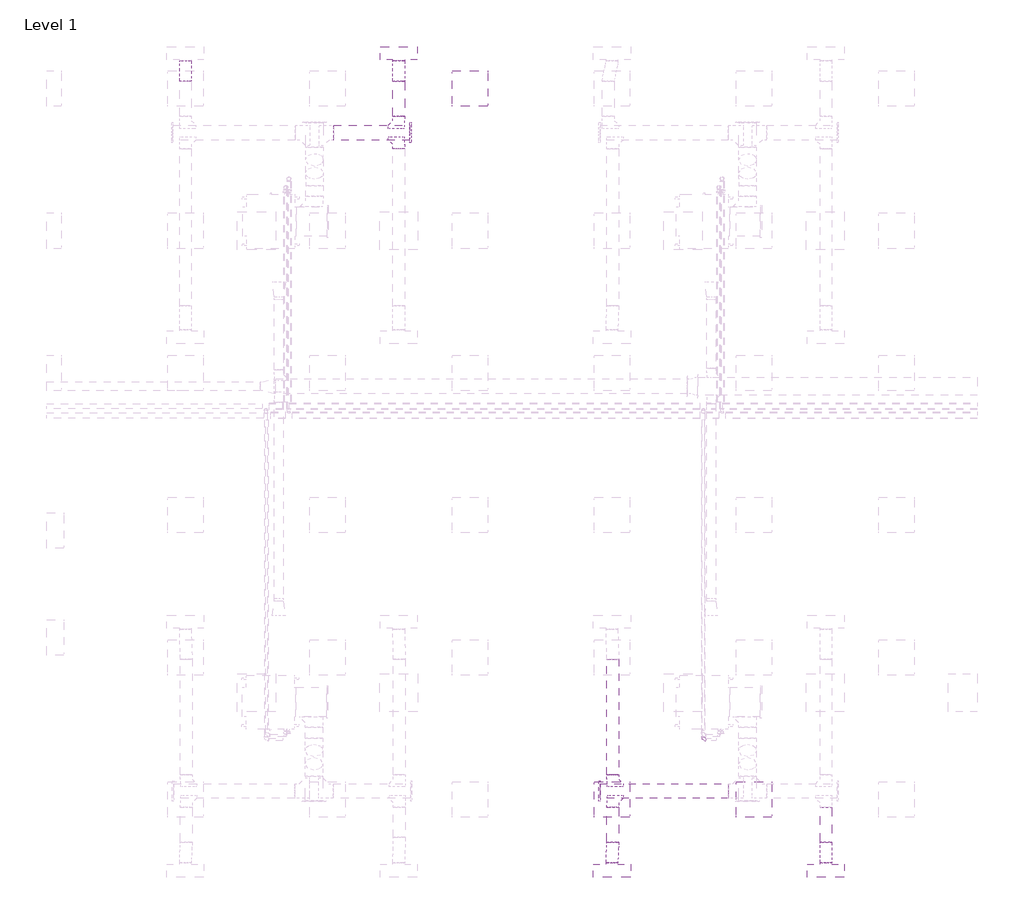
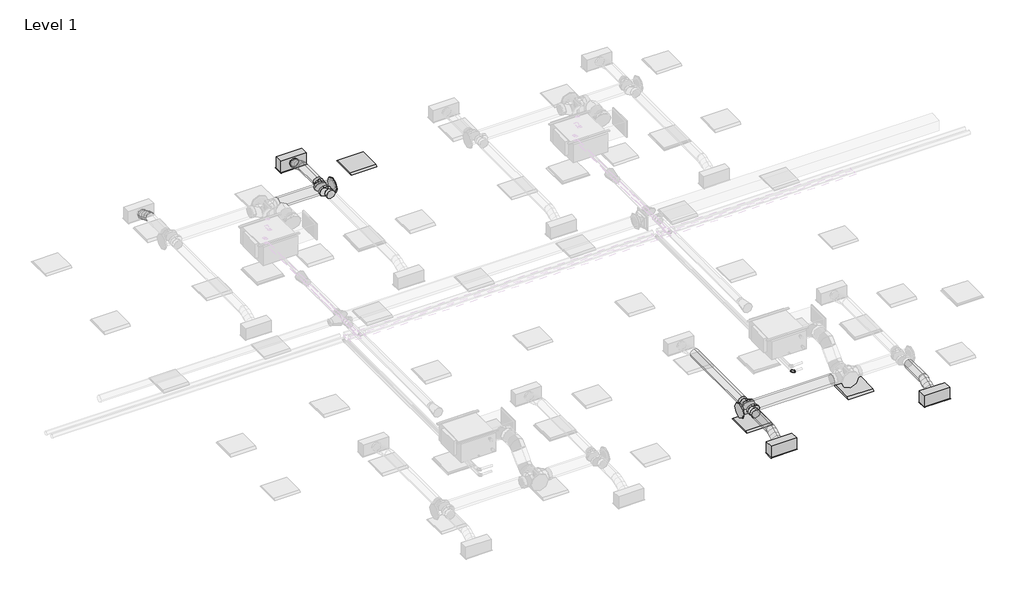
# One storey, part 6 of 30: 10 duct segments, 6 duct fittings, 3 air terminals, 3 light fixtures, 1 pipe fitting.
"""IFC4 building model written with IfcOpenShell, lengths in millimetres."""

from ifc_helpers import new_model, si_unit, point, frame, frame_2d, origin, place, context, project, spatial, circle_curve, ellipse_curve, trimmed, segment, composite_curve, outline, extrude, transform, mapped, element, save
from ifc_brep_helpers import plane_surface, cylinder_surface, advanced_brep
from components import supply_diffuser_with_plenum_linear_slot_hosted_8c379eed, dw144_round_blank_end_standard_e3d0b58b, dw144_round_blank_end_standard_9aa061e7, dw144_round_shoe_branch_slip_joint1_standard_2_15a2edd8, light_fixture_1c7c1157, elbow_threaded_gmi_standard_b4aa7741

model = new_model("IFC4")

# Units and contexts
model_context = context("Model", 3, world=origin())
ifc_project = project(units=[si_unit("LENGTHUNIT", "METRE", prefix="MILLI")], contexts=[model_context])

# Site, building, storey
site = spatial("IfcSite", under=ifc_project)
building = spatial("IfcBuilding", under=site)
storey = spatial("IfcBuildingStorey", under=building, Name="Level 1", Elevation=3900.0)

# Air terminals
placement = place(None, origin())
supply_diffuser_with_plenum_linear_slot_hosted_shape = supply_diffuser_with_plenum_linear_slot_hosted_8c379eed(model_context)
element("IfcAirTerminal", 1, ObjectType="Supply Diffuser with Plenum - Linear Slot - Hosted : 24\" x 8\"-200 In Inlet  4-Slot", at=placement, inside=storey, context=model_context, shape_type="MappedRepresentation", body=[
    mapped(supply_diffuser_with_plenum_linear_slot_hosted_shape, transform((16362.2000027, 963.2000004, 6700.0), x_axis=(1.0, 0.0, 0.0), y_axis=(0.0, -1.0, 0.0), z_axis=(0.0, 0.0, -1.0))),
])
element("IfcAirTerminal", 2, ObjectType="Supply Diffuser with Plenum - Linear Slot - Hosted : 24\" x 8\"-200 In Inlet  4-Slot", at=placement, inside=storey, context=model_context, shape_type="MappedRepresentation", body=[
    mapped(supply_diffuser_with_plenum_linear_slot_hosted_shape, transform((19973.9000022, 963.2000004, 6700.0), x_axis=(1.0, 0.0, 0.0), y_axis=(0.0, -1.0, 0.0), z_axis=(0.0, 0.0, -1.0))),
])
element("IfcAirTerminal", 3, ObjectType="Supply Diffuser with Plenum - Linear Slot - Hosted : 24\" x 8\"-200 In Inlet  4-Slot", at=placement, inside=storey, context=model_context, shape_type="MappedRepresentation", body=[
    mapped(supply_diffuser_with_plenum_linear_slot_hosted_shape, transform((12762.2000027, 14763.2000004, 6700.0), x_axis=(-1.0, 0.0, 0.0), y_axis=(0.0, 1.0, 0.0), z_axis=(0.0, 0.0, -1.0))),
])

# Duct fittings
dw144_round_blank_end_standard_shape = dw144_round_blank_end_standard_e3d0b58b(model_context)
element("IfcDuctFitting", 4, ObjectType="DW144 Round Blank End : Standard", at=placement, inside=storey, context=model_context, shape_type="MappedRepresentation", body=[
    mapped(dw144_round_blank_end_standard_shape, transform((12949.7561029, 13419.8981817, 6972.2088531), x_axis=(1.0, 0.0, 0.0), y_axis=(0.0, 1.0, 0.0), z_axis=(0.0, 0.0, 1.0))),
])
dw144_round_blank_end_standard_2_shape = dw144_round_blank_end_standard_9aa061e7(model_context)
element("IfcDuctFitting", 5, ObjectType="DW144 Round Blank End : Standard", at=placement, inside=storey, context=model_context, shape_type="MappedRepresentation", body=[
    mapped(dw144_round_blank_end_standard_2_shape, transform((16161.4561025, 2306.5018192, 6972.2088531), x_axis=(-1.0, 0.0, 0.0), y_axis=(0.0, -1.0, 0.0), z_axis=(0.0, 0.0, 1.0))),
])
dw144_round_shoe_branch_slip_joint1_standard_2_shape = dw144_round_shoe_branch_slip_joint1_standard_2_15a2edd8(model_context)
element("IfcDuctFitting", 6, ObjectType="DW144 Round Shoe Branch - Slip Joint1 : Standard 2", at=placement, inside=storey, context=model_context, shape_type="MappedRepresentation", body=[
    mapped(dw144_round_shoe_branch_slip_joint1_standard_2_shape, transform((12762.2000027, 13544.8981817, 6972.2088531), x_axis=(0.0, 1.0, 0.0), y_axis=(1.0, 0.0, 0.0), z_axis=(0.0, 0.0, -1.0))),
])
element("IfcDuctFitting", 7, ObjectType="DW144 Round Shoe Branch - Slip Joint1 : Standard 2", at=placement, inside=storey, context=model_context, shape_type="MappedRepresentation", body=[
    mapped(dw144_round_shoe_branch_slip_joint1_standard_2_shape, transform((12762.2000027, 13294.8981817, 6972.2088531), x_axis=(0.0, -1.0, 0.0), y_axis=(1.0, 0.0, 0.0), z_axis=(0.0, 0.0, 1.0))),
])
element("IfcDuctFitting", 8, ObjectType="DW144 Round Shoe Branch - Slip Joint1 : Standard 2", at=placement, inside=storey, context=model_context, shape_type="MappedRepresentation", body=[
    mapped(dw144_round_shoe_branch_slip_joint1_standard_2_shape, transform((16373.9000022, 2181.5018192, 6972.2088531), x_axis=(0.0, -1.0, 0.0), y_axis=(-1.0, 0.0, 0.0), z_axis=(0.0, 0.0, -1.0))),
])
element("IfcDuctFitting", 9, ObjectType="DW144 Round Shoe Branch - Slip Joint1 : Standard 2", at=placement, inside=storey, context=model_context, shape_type="MappedRepresentation", body=[
    mapped(dw144_round_shoe_branch_slip_joint1_standard_2_shape, transform((16373.9000022, 2431.5018192, 6972.2088531), x_axis=(0.0, 1.0, 0.0), y_axis=(-1.0, 0.0, 0.0), z_axis=(0.0, 0.0, 1.0))),
])

# Duct segments
element("IfcDuctSegment", 10, ObjectType="DW144 Segmented Bend / Shoe Branch", at=placement, inside=storey, context=model_context, shape_type="SweptSolid", body=[
    extrude(outline(composite_curve([segment(trimmed(circle_curve(frame_2d((13419.8981817, 6972.2088531)), 125.0), [point((13294.8981817, 6972.2088531))], [point((13419.8981817, 7097.2088531))], False, "CARTESIAN"), True, "CONTINUOUS"), segment(trimmed(circle_curve(frame_2d((13419.8981817, 6972.2088531)), 125.0), [point((13419.8981817, 7097.2088531))], [point((13544.8981817, 6972.2088531))], False, "CARTESIAN"), True, "CONTINUOUS"), segment(trimmed(circle_curve(frame_2d((13419.8981817, 6972.2088531)), 125.0), [point((13544.8981817, 6972.2088531))], [point((13419.8981817, 6847.2088531))], False, "CARTESIAN"), True, "CONTINUOUS"), segment(trimmed(circle_curve(frame_2d((13419.8981817, 6972.2088531)), 125.0), [point((13419.8981817, 6847.2088531))], [point((13294.8981817, 6972.2088531))], False, "CARTESIAN"), True, "CONTINUOUS")], self_intersect=False)), frame((11664.7561029, 0.0, 0.0), z_axis=(1.0, 0.0, 0.0), x_axis=(0.0, 1.0, 0.0)), (0.0, 0.0, 1.0), 1285.0),
])
element("IfcDuctSegment", 11, ObjectType="DW144 Segmented Bend / Shoe Branch", at=placement, inside=storey, context=model_context, shape_type="SweptSolid", body=[
    extrude(outline(composite_curve([segment(trimmed(circle_curve(frame_2d((6972.2088531, 12762.2000027)), 100.0), [point((6972.2088531, 12862.2000027))], [point((7072.2088531, 12762.2000027))], False, "CARTESIAN"), True, "CONTINUOUS"), segment(trimmed(circle_curve(frame_2d((6972.2088531, 12762.2000027)), 100.0), [point((7072.2088531, 12762.2000027))], [point((6972.2088531, 12662.2000027))], False, "CARTESIAN"), True, "CONTINUOUS"), segment(trimmed(circle_curve(frame_2d((6972.2088531, 12762.2000027)), 100.0), [point((6972.2088531, 12662.2000027))], [point((6872.2088531, 12762.2000027))], False, "CARTESIAN"), True, "CONTINUOUS"), segment(trimmed(circle_curve(frame_2d((6972.2088531, 12762.2000027)), 100.0), [point((6872.2088531, 12762.2000027))], [point((6972.2088531, 12862.2000027))], False, "CARTESIAN"), True, "CONTINUOUS")], self_intersect=False)), frame((0.0, 13694.8981817, 0.0), z_axis=(0.0, 1.0, 0.0), x_axis=(0.0, 0.0, 1.0)), (0.0, 0.0, 1.0), 590.0),
])
element("IfcDuctSegment", 12, ObjectType="DW144 Segmented Bend / Shoe Branch", at=placement, inside=storey, context=model_context, shape_type="SweptSolid", body=[
    extrude(outline(composite_curve([segment(trimmed(circle_curve(frame_2d((2306.5018192, 6972.2088531)), 125.0), [point((2431.5018192, 6972.2088531))], [point((2306.5018192, 6847.2088531))], False, "CARTESIAN"), True, "CONTINUOUS"), segment(trimmed(circle_curve(frame_2d((2306.5018192, 6972.2088531)), 125.0), [point((2306.5018192, 6847.2088531))], [point((2181.5018192, 6972.2088531))], False, "CARTESIAN"), True, "CONTINUOUS"), segment(trimmed(circle_curve(frame_2d((2306.5018192, 6972.2088531)), 125.0), [point((2181.5018192, 6972.2088531))], [point((2306.5018192, 7097.2088531))], False, "CARTESIAN"), True, "CONTINUOUS"), segment(trimmed(circle_curve(frame_2d((2306.5018192, 6972.2088531)), 125.0), [point((2306.5018192, 7097.2088531))], [point((2431.5018192, 6972.2088531))], False, "CARTESIAN"), True, "CONTINUOUS")], self_intersect=False)), frame((16161.4561025, 0.0, 0.0), z_axis=(1.0, 0.0, 0.0), x_axis=(0.0, 1.0, 0.0)), (0.0, 0.0, 1.0), 2165.0),
])
element("IfcDuctSegment", 13, ObjectType="DW144 Segmented Bend / Shoe Branch", at=placement, inside=storey, context=model_context, shape_type="SweptSolid", body=[
    extrude(outline(composite_curve([segment(trimmed(circle_curve(frame_2d((6972.2088531, 19973.9000022)), 100.0), [point((6972.2088531, 19873.9000022))], [point((6872.2088531, 19973.9000022))], False, "CARTESIAN"), True, "CONTINUOUS"), segment(trimmed(circle_curve(frame_2d((6972.2088531, 19973.9000022)), 100.0), [point((6872.2088531, 19973.9000022))], [point((6972.2088531, 20073.9000022))], False, "CARTESIAN"), True, "CONTINUOUS"), segment(trimmed(circle_curve(frame_2d((6972.2088531, 19973.9000022)), 100.0), [point((6972.2088531, 20073.9000022))], [point((7072.2088531, 19973.9000022))], False, "CARTESIAN"), True, "CONTINUOUS"), segment(trimmed(circle_curve(frame_2d((6972.2088531, 19973.9000022)), 100.0), [point((7072.2088531, 19973.9000022))], [point((6972.2088531, 19873.9000022))], False, "CARTESIAN"), True, "CONTINUOUS")], self_intersect=False)), frame((0.0, 1441.5018192, 0.0), z_axis=(0.0, 1.0, 0.0), x_axis=(0.0, 0.0, 1.0)), (0.0, 0.0, 1.0), 590.0),
])
element("IfcDuctSegment", 14, ObjectType="DW144 Segmented Bend / Shoe Branch", at=placement, inside=storey, context=model_context, shape_type="SweptSolid", body=[
    extrude(outline(composite_curve([segment(trimmed(circle_curve(frame_2d((6972.2088531, 16373.9000022)), 100.0), [point((6972.2088531, 16473.9000022))], [point((7072.2088531, 16373.9000022))], False, "CARTESIAN"), True, "CONTINUOUS"), segment(trimmed(circle_curve(frame_2d((6972.2088531, 16373.9000022)), 100.0), [point((7072.2088531, 16373.9000022))], [point((6972.2088531, 16273.9000022))], False, "CARTESIAN"), True, "CONTINUOUS"), segment(trimmed(circle_curve(frame_2d((6972.2088531, 16373.9000022)), 100.0), [point((6972.2088531, 16273.9000022))], [point((6872.2088531, 16373.9000022))], False, "CARTESIAN"), True, "CONTINUOUS"), segment(trimmed(circle_curve(frame_2d((6972.2088531, 16373.9000022)), 100.0), [point((6872.2088531, 16373.9000022))], [point((6972.2088531, 16473.9000022))], False, "CARTESIAN"), True, "CONTINUOUS")], self_intersect=False)), frame((0.0, 1441.5018192, 0.0), z_axis=(0.0, 1.0, 0.0), x_axis=(0.0, 0.0, 1.0)), (0.0, 0.0, 1.0), 590.0),
])
element("IfcDuctSegment", 15, ObjectType="DW144 Segmented Bend / Shoe Branch", at=placement, inside=storey, context=model_context, shape_type="SweptSolid", body=[
    extrude(outline(composite_curve([segment(trimmed(circle_curve(frame_2d((6972.2088531, 16373.9000022)), 100.0), [point((6972.2088531, 16473.9000022))], [point((7072.2088531, 16373.9000022))], False, "CARTESIAN"), True, "CONTINUOUS"), segment(trimmed(circle_curve(frame_2d((6972.2088531, 16373.9000022)), 100.0), [point((7072.2088531, 16373.9000022))], [point((6972.2088531, 16273.9000022))], False, "CARTESIAN"), True, "CONTINUOUS"), segment(trimmed(circle_curve(frame_2d((6972.2088531, 16373.9000022)), 100.0), [point((6972.2088531, 16273.9000022))], [point((6872.2088531, 16373.9000022))], False, "CARTESIAN"), True, "CONTINUOUS"), segment(trimmed(circle_curve(frame_2d((6972.2088531, 16373.9000022)), 100.0), [point((6872.2088531, 16373.9000022))], [point((6972.2088531, 16473.9000022))], False, "CARTESIAN"), True, "CONTINUOUS")], self_intersect=False)), frame((0.0, 2581.5018192, 0.0), z_axis=(0.0, 1.0, 0.0), x_axis=(0.0, 0.0, 1.0)), (0.0, 0.0, 1.0), 1950.0),
])
element("IfcDuctSegment", 16, ObjectType="Flex - Round", at=placement, inside=storey, context=model_context, shape_type="AdvancedBrep", body=[
    advanced_brep(
    [(12662.2000027, 14284.8981817, 6972.2088531), (12762.2000027, 14284.8981817, 6872.2088531), (12862.2000027, 14284.8981817, 6972.2088531), (12762.2000027, 14284.8981817, 7072.2088531), (12662.2000027, 14305.1168804, 6972.2088531), (12762.2000027, 14291.9969011, 6872.2088531), (12862.2000027, 14305.1168804, 6972.2088531), (12762.2000027, 14318.2368598, 7072.2088531), (12662.2000027, 14634.3000004, 6854.4), (12762.2000027, 14634.3000004, 6954.4), (12862.2000027, 14634.3000004, 6854.4), (12762.2000027, 14634.3000004, 6754.4), (12662.2000027, 14374.0604937, 6953.8012198), (12762.2000027, 14339.4842635, 6859.5299419), (12862.2000027, 14374.0604937, 6953.8012198), (12762.2000027, 14408.6367238, 7048.0724978), (12662.2000027, 14459.599091, 6913.3044266), (12762.2000027, 14416.809003, 6822.9218599), (12862.2000027, 14459.599091, 6913.3044266), (12762.2000027, 14502.3891791, 7003.6869932), (12662.2000027, 14545.1376884, 6872.8076333), (12762.2000027, 14510.5614583, 6778.5363553), (12862.2000027, 14545.1376884, 6872.8076333), (12762.2000027, 14579.7139186, 6967.0789113), (12662.2000027, 14614.0813017, 6854.4), (12762.2000027, 14600.9613223, 6754.4), (12862.2000027, 14614.0813017, 6854.4), (12762.2000027, 14627.201281, 6954.4)],
    [
        (0, 1, circle_curve(frame((12762.2000027, 14284.8981817, 6972.2088531), z_axis=(0.0, -1.0, 0.0), x_axis=(-1.0, 0.0, 0.0)), 100.0)),
        (1, 2, circle_curve(frame((12762.2000027, 14284.8981817, 6972.2088531), z_axis=(0.0, -1.0, 0.0), x_axis=(-1.0, 0.0, 0.0)), 100.0)),
        (2, 3, circle_curve(frame((12762.2000027, 14284.8981817, 6972.2088531), z_axis=(0.0, -1.0, 0.0), x_axis=(-1.0, 0.0, 0.0)), 100.0)),
        (3, 0, circle_curve(frame((12762.2000027, 14284.8981817, 6972.2088531), z_axis=(0.0, -1.0, 0.0), x_axis=(-1.0, 0.0, 0.0)), 100.0)),
        (0, 4),
        (4, 5, ellipse_curve(frame((12762.2000027, 14305.1168804, 6972.2088531), z_axis=(0.0, -0.9915028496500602, 0.1300849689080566), x_axis=(0.0, -0.13008496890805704, -0.9915028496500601)), 100.8569971, 100.0)),
        (5, 1),
        (5, 6, ellipse_curve(frame((12762.2000027, 14305.1168804, 6972.2088531), z_axis=(0.0, -0.9915028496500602, 0.1300849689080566), x_axis=(0.0, -0.13008496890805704, -0.9915028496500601)), 100.8569971, 100.0)),
        (6, 2),
        (6, 7, ellipse_curve(frame((12762.2000027, 14305.1168804, 6972.2088531), z_axis=(0.0, -0.9915028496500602, 0.1300849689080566), x_axis=(0.0, -0.13008496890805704, -0.9915028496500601)), 100.8569971, 100.0)),
        (7, 3),
        (7, 4, ellipse_curve(frame((12762.2000027, 14305.1168804, 6972.2088531), z_axis=(0.0, -0.9915028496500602, 0.1300849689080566), x_axis=(0.0, -0.13008496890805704, -0.9915028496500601)), 100.8569971, 100.0)),
        (8, 9, circle_curve(frame((12762.2000027, 14634.3000004, 6854.4), z_axis=(0.0, 1.0, 0.0), x_axis=(-1.0, 0.0, 0.0)), 100.0)),
        (9, 10, circle_curve(frame((12762.2000027, 14634.3000004, 6854.4), z_axis=(0.0, 1.0, 0.0), x_axis=(-1.0, 0.0, 0.0)), 100.0)),
        (10, 11, circle_curve(frame((12762.2000027, 14634.3000004, 6854.4), z_axis=(0.0, 1.0, 0.0), x_axis=(-1.0, 0.0, 0.0)), 100.0)),
        (11, 8, circle_curve(frame((12762.2000027, 14634.3000004, 6854.4), z_axis=(0.0, 1.0, 0.0), x_axis=(-1.0, 0.0, 0.0)), 100.0)),
        (4, 12),
        (12, 13, ellipse_curve(frame((12762.2000027, 14374.0604937, 6953.8012198), z_axis=(0.0, -0.9388438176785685, 0.3443432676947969), x_axis=(0.0, -0.34434326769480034, -0.9388438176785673)), 100.4120986, 100.0)),
        (13, 5),
        (13, 14, ellipse_curve(frame((12762.2000027, 14374.0604937, 6953.8012198), z_axis=(0.0, -0.9388438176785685, 0.3443432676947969), x_axis=(0.0, -0.34434326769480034, -0.9388438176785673)), 100.4120986, 100.0)),
        (14, 6),
        (14, 15, ellipse_curve(frame((12762.2000027, 14374.0604937, 6953.8012198), z_axis=(0.0, -0.9388438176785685, 0.3443432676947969), x_axis=(0.0, -0.34434326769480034, -0.9388438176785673)), 100.4120986, 100.0)),
        (15, 7),
        (15, 12, ellipse_curve(frame((12762.2000027, 14374.0604937, 6953.8012198), z_axis=(0.0, -0.9388438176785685, 0.3443432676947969), x_axis=(0.0, -0.34434326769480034, -0.9388438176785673)), 100.4120986, 100.0)),
        (12, 16),
        (16, 17, circle_curve(frame((12762.2000027, 14459.599091, 6913.3044266), z_axis=(0.0, -0.9038256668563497, 0.4279008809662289), x_axis=(-1.0, 0.0, 0.0)), 100.0)),
        (17, 13),
        (17, 18, circle_curve(frame((12762.2000027, 14459.599091, 6913.3044266), z_axis=(0.0, -0.9038256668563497, 0.4279008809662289), x_axis=(-1.0, 0.0, 0.0)), 100.0)),
        (18, 14),
        (18, 19, circle_curve(frame((12762.2000027, 14459.599091, 6913.3044266), z_axis=(0.0, -0.9038256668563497, 0.4279008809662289), x_axis=(-1.0, 0.0, 0.0)), 100.0)),
        (19, 15),
        (19, 16, circle_curve(frame((12762.2000027, 14459.599091, 6913.3044266), z_axis=(0.0, -0.9038256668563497, 0.4279008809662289), x_axis=(-1.0, 0.0, 0.0)), 100.0)),
        (16, 20),
        (20, 21, ellipse_curve(frame((12762.2000027, 14545.1376884, 6872.8076333), z_axis=(0.0, -0.93884381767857, 0.34434326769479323), x_axis=(0.0, 0.34434326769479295, 0.9388438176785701)), 100.4120986, 100.0)),
        (21, 17),
        (21, 22, ellipse_curve(frame((12762.2000027, 14545.1376884, 6872.8076333), z_axis=(0.0, -0.93884381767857, 0.34434326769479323), x_axis=(0.0, 0.34434326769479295, 0.9388438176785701)), 100.4120986, 100.0)),
        (22, 18),
        (22, 23, ellipse_curve(frame((12762.2000027, 14545.1376884, 6872.8076333), z_axis=(0.0, -0.93884381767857, 0.34434326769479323), x_axis=(0.0, 0.34434326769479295, 0.9388438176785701)), 100.4120986, 100.0)),
        (23, 19),
        (23, 20, ellipse_curve(frame((12762.2000027, 14545.1376884, 6872.8076333), z_axis=(0.0, -0.93884381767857, 0.34434326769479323), x_axis=(0.0, 0.34434326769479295, 0.9388438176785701)), 100.4120986, 100.0)),
        (20, 24),
        (24, 25, ellipse_curve(frame((12762.2000027, 14614.0813017, 6854.4), z_axis=(0.0, -0.9915028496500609, 0.13008496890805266), x_axis=(0.0, 0.1300849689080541, 0.9915028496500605)), 100.8569971, 100.0)),
        (25, 21),
        (25, 26, ellipse_curve(frame((12762.2000027, 14614.0813017, 6854.4), z_axis=(0.0, -0.9915028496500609, 0.13008496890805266), x_axis=(0.0, 0.1300849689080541, 0.9915028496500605)), 100.8569971, 100.0)),
        (26, 22),
        (26, 27, ellipse_curve(frame((12762.2000027, 14614.0813017, 6854.4), z_axis=(0.0, -0.9915028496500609, 0.13008496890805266), x_axis=(0.0, 0.1300849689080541, 0.9915028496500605)), 100.8569971, 100.0)),
        (27, 23),
        (27, 24, ellipse_curve(frame((12762.2000027, 14614.0813017, 6854.4), z_axis=(0.0, -0.9915028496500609, 0.13008496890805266), x_axis=(0.0, 0.1300849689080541, 0.9915028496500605)), 100.8569971, 100.0)),
        (24, 8),
        (11, 25),
        (10, 26),
        (9, 27),
    ],
    [
        plane_surface(frame((12662.2000027, 14284.8981817, 6972.2088531), z_axis=(0.0, -1.0, 0.0), x_axis=(0.0, 0.0, 1.0))),
        cylinder_surface(frame((12762.2000027, 14284.8981817, 6972.2088531), z_axis=(0.0, -1.0, 0.0), x_axis=(-1.0, 0.0, 0.0)), 100.0),
        plane_surface(frame((12662.2000027, 14634.3000004, 6854.4), z_axis=(0.0, 1.0, 0.0), x_axis=(0.0, 0.0, 1.0))),
        cylinder_surface(frame((12762.2000027, 14305.1168804, 6972.2088531), z_axis=(0.0, -0.9661558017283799, 0.2579592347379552), x_axis=(-1.0, 0.0, 0.0)), 100.0),
        cylinder_surface(frame((12762.2000027, 14374.0604937, 6953.8012198), z_axis=(0.0, -0.9038256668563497, 0.4279008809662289), x_axis=(-1.0, 0.0, 0.0)), 100.0),
        cylinder_surface(frame((12762.2000027, 14459.599091, 6913.3044266), z_axis=(0.0, -0.9038256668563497, 0.4279008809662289), x_axis=(-1.0, 0.0, 0.0)), 100.0),
        cylinder_surface(frame((12762.2000027, 14545.1376884, 6872.8076333), z_axis=(0.0, -0.966155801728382, 0.2579592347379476), x_axis=(-1.0, 0.0, 0.0)), 100.0),
        cylinder_surface(frame((12762.2000027, 14614.0813017, 6854.4), z_axis=(0.0, -1.0, 0.0), x_axis=(-1.0, 0.0, 0.0)), 100.0),
    ],
    [
        (0, [[1, 2, 3, 4]]),
        (1, [[-1, 5, 6, 7]]),
        (1, [[-2, -7, 8, 9]]),
        (1, [[-3, -9, 10, 11]]),
        (1, [[-4, -11, 12, -5]]),
        (2, [[13, 14, 15, 16]]),
        (3, [[-6, 17, 18, 19]]),
        (3, [[-8, -19, 20, 21]]),
        (3, [[-10, -21, 22, 23]]),
        (3, [[-12, -23, 24, -17]]),
        (4, [[-18, 25, 26, 27]]),
        (4, [[-20, -27, 28, 29]]),
        (4, [[-22, -29, 30, 31]]),
        (4, [[-24, -31, 32, -25]]),
        (5, [[-26, 33, 34, 35]]),
        (5, [[-28, -35, 36, 37]]),
        (5, [[-30, -37, 38, 39]]),
        (5, [[-32, -39, 40, -33]]),
        (6, [[-34, 41, 42, 43]]),
        (6, [[-36, -43, 44, 45]]),
        (6, [[-38, -45, 46, 47]]),
        (6, [[-40, -47, 48, -41]]),
        (7, [[-42, 49, -16, 50]]),
        (7, [[-44, -50, -15, 51]]),
        (7, [[-46, -51, -14, 52]]),
        (7, [[-48, -52, -13, -49]]),
    ],
),
])
element("IfcDuctSegment", 17, ObjectType="Flex - Round", at=placement, inside=storey, context=model_context, shape_type="AdvancedBrep", body=[
    advanced_brep(
    [(9062.2000027, 14284.8981817, 6972.2088531), (9162.2000027, 14284.8981817, 6872.2088531), (9262.2000027, 14284.8981817, 6972.2088531), (9162.2000027, 14284.8981817, 7072.2088531), (9062.2000027, 14305.1168804, 6972.2088531), (9162.2000027, 14291.9969011, 6872.2088531), (9262.2000027, 14305.1168804, 6972.2088531), (9162.2000027, 14318.2368598, 7072.2088531), (9062.2000027, 14634.3000004, 6854.4), (9162.2000027, 14634.3000004, 6954.4), (9262.2000027, 14634.3000004, 6854.4), (9162.2000027, 14634.3000004, 6754.4), (9062.2000027, 14374.0604937, 6953.8012198), (9162.2000027, 14339.4842635, 6859.5299419), (9262.2000027, 14374.0604937, 6953.8012198), (9162.2000027, 14408.6367238, 7048.0724978), (9062.2000027, 14459.599091, 6913.3044266), (9162.2000027, 14416.809003, 6822.9218599), (9262.2000027, 14459.599091, 6913.3044266), (9162.2000027, 14502.3891791, 7003.6869932), (9062.2000027, 14545.1376884, 6872.8076333), (9162.2000027, 14510.5614583, 6778.5363553), (9262.2000027, 14545.1376884, 6872.8076333), (9162.2000027, 14579.7139186, 6967.0789113), (9062.2000027, 14614.0813017, 6854.4), (9162.2000027, 14600.9613223, 6754.4), (9262.2000027, 14614.0813017, 6854.4), (9162.2000027, 14627.201281, 6954.4)],
    [
        (0, 1, circle_curve(frame((9162.2000027, 14284.8981817, 6972.2088531), z_axis=(0.0, -1.0, 0.0), x_axis=(-1.0, 0.0, 0.0)), 100.0)),
        (1, 2, circle_curve(frame((9162.2000027, 14284.8981817, 6972.2088531), z_axis=(0.0, -1.0, 0.0), x_axis=(-1.0, 0.0, 0.0)), 100.0)),
        (2, 3, circle_curve(frame((9162.2000027, 14284.8981817, 6972.2088531), z_axis=(0.0, -1.0, 0.0), x_axis=(-1.0, 0.0, 0.0)), 100.0)),
        (3, 0, circle_curve(frame((9162.2000027, 14284.8981817, 6972.2088531), z_axis=(0.0, -1.0, 0.0), x_axis=(-1.0, 0.0, 0.0)), 100.0)),
        (0, 4),
        (4, 5, ellipse_curve(frame((9162.2000027, 14305.1168804, 6972.2088531), z_axis=(0.0, -0.9915028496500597, 0.13008496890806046), x_axis=(0.0, -0.13008496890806, -0.9915028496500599)), 100.8569971, 100.0)),
        (5, 1),
        (5, 6, ellipse_curve(frame((9162.2000027, 14305.1168804, 6972.2088531), z_axis=(0.0, -0.9915028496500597, 0.13008496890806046), x_axis=(0.0, -0.13008496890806, -0.9915028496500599)), 100.8569971, 100.0)),
        (6, 2),
        (6, 7, ellipse_curve(frame((9162.2000027, 14305.1168804, 6972.2088531), z_axis=(0.0, -0.9915028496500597, 0.13008496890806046), x_axis=(0.0, -0.13008496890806, -0.9915028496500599)), 100.8569971, 100.0)),
        (7, 3),
        (7, 4, ellipse_curve(frame((9162.2000027, 14305.1168804, 6972.2088531), z_axis=(0.0, -0.9915028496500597, 0.13008496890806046), x_axis=(0.0, -0.13008496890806, -0.9915028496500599)), 100.8569971, 100.0)),
        (8, 9, circle_curve(frame((9162.2000027, 14634.3000004, 6854.4), z_axis=(0.0, 1.0, 0.0), x_axis=(-1.0, 0.0, 0.0)), 100.0)),
        (9, 10, circle_curve(frame((9162.2000027, 14634.3000004, 6854.4), z_axis=(0.0, 1.0, 0.0), x_axis=(-1.0, 0.0, 0.0)), 100.0)),
        (10, 11, circle_curve(frame((9162.2000027, 14634.3000004, 6854.4), z_axis=(0.0, 1.0, 0.0), x_axis=(-1.0, 0.0, 0.0)), 100.0)),
        (11, 8, circle_curve(frame((9162.2000027, 14634.3000004, 6854.4), z_axis=(0.0, 1.0, 0.0), x_axis=(-1.0, 0.0, 0.0)), 100.0)),
        (4, 12),
        (12, 13, ellipse_curve(frame((9162.2000027, 14374.0604937, 6953.8012198), z_axis=(0.0, -0.9388438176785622, 0.34434326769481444), x_axis=(0.0, -0.34434326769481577, -0.9388438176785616)), 100.4120986, 100.0)),
        (13, 5),
        (13, 14, ellipse_curve(frame((9162.2000027, 14374.0604937, 6953.8012198), z_axis=(0.0, -0.9388438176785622, 0.34434326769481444), x_axis=(0.0, -0.34434326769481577, -0.9388438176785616)), 100.4120986, 100.0)),
        (14, 6),
        (14, 15, ellipse_curve(frame((9162.2000027, 14374.0604937, 6953.8012198), z_axis=(0.0, -0.9388438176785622, 0.34434326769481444), x_axis=(0.0, -0.34434326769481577, -0.9388438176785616)), 100.4120986, 100.0)),
        (15, 7),
        (15, 12, ellipse_curve(frame((9162.2000027, 14374.0604937, 6953.8012198), z_axis=(0.0, -0.9388438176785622, 0.34434326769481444), x_axis=(0.0, -0.34434326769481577, -0.9388438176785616)), 100.4120986, 100.0)),
        (12, 16),
        (16, 17, circle_curve(frame((9162.2000027, 14459.599091, 6913.3044266), z_axis=(0.0, -0.903825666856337, 0.42790088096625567), x_axis=(-1.0, 0.0, 0.0)), 100.0)),
        (17, 13),
        (17, 18, circle_curve(frame((9162.2000027, 14459.599091, 6913.3044266), z_axis=(0.0, -0.903825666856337, 0.42790088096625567), x_axis=(-1.0, 0.0, 0.0)), 100.0)),
        (18, 14),
        (18, 19, circle_curve(frame((9162.2000027, 14459.599091, 6913.3044266), z_axis=(0.0, -0.903825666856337, 0.42790088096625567), x_axis=(-1.0, 0.0, 0.0)), 100.0)),
        (19, 15),
        (19, 16, circle_curve(frame((9162.2000027, 14459.599091, 6913.3044266), z_axis=(0.0, -0.903825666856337, 0.42790088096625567), x_axis=(-1.0, 0.0, 0.0)), 100.0)),
        (16, 20),
        (20, 21, ellipse_curve(frame((9162.2000027, 14545.1376884, 6872.8076333), z_axis=(0.0, -0.9388438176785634, 0.3443432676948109), x_axis=(0.0, 0.34434326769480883, 0.9388438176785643)), 100.4120986, 100.0)),
        (21, 17),
        (21, 22, ellipse_curve(frame((9162.2000027, 14545.1376884, 6872.8076333), z_axis=(0.0, -0.9388438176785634, 0.3443432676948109), x_axis=(0.0, 0.34434326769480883, 0.9388438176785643)), 100.4120986, 100.0)),
        (22, 18),
        (22, 23, ellipse_curve(frame((9162.2000027, 14545.1376884, 6872.8076333), z_axis=(0.0, -0.9388438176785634, 0.3443432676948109), x_axis=(0.0, 0.34434326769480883, 0.9388438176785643)), 100.4120986, 100.0)),
        (23, 19),
        (23, 20, ellipse_curve(frame((9162.2000027, 14545.1376884, 6872.8076333), z_axis=(0.0, -0.9388438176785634, 0.3443432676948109), x_axis=(0.0, 0.34434326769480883, 0.9388438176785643)), 100.4120986, 100.0)),
        (20, 24),
        (24, 25, ellipse_curve(frame((9162.2000027, 14614.0813017, 6854.4), z_axis=(0.0, -0.9915028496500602, 0.1300849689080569), x_axis=(0.0, 0.1300849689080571, 0.9915028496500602)), 100.8569971, 100.0)),
        (25, 21),
        (25, 26, ellipse_curve(frame((9162.2000027, 14614.0813017, 6854.4), z_axis=(0.0, -0.9915028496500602, 0.1300849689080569), x_axis=(0.0, 0.1300849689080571, 0.9915028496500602)), 100.8569971, 100.0)),
        (26, 22),
        (26, 27, ellipse_curve(frame((9162.2000027, 14614.0813017, 6854.4), z_axis=(0.0, -0.9915028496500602, 0.1300849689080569), x_axis=(0.0, 0.1300849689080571, 0.9915028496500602)), 100.8569971, 100.0)),
        (27, 23),
        (27, 24, ellipse_curve(frame((9162.2000027, 14614.0813017, 6854.4), z_axis=(0.0, -0.9915028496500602, 0.1300849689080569), x_axis=(0.0, 0.1300849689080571, 0.9915028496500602)), 100.8569971, 100.0)),
        (24, 8),
        (11, 25),
        (10, 26),
        (9, 27),
    ],
    [
        plane_surface(frame((9062.2000027, 14284.8981817, 6972.2088531), z_axis=(0.0, -1.0, 0.0), x_axis=(0.0, 0.0, 1.0))),
        cylinder_surface(frame((9162.2000027, 14284.8981817, 6972.2088531), z_axis=(0.0, -1.0, 0.0), x_axis=(-1.0, 0.0, 0.0)), 100.0),
        plane_surface(frame((9062.2000027, 14634.3000004, 6854.4), z_axis=(0.0, 1.0, 0.0), x_axis=(0.0, 0.0, 1.0))),
        cylinder_surface(frame((9162.2000027, 14305.1168804, 6972.2088531), z_axis=(0.0, -0.9661558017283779, 0.25795923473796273), x_axis=(-1.0, 0.0, 0.0)), 100.0),
        cylinder_surface(frame((9162.2000027, 14374.0604937, 6953.8012198), z_axis=(0.0, -0.903825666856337, 0.42790088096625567), x_axis=(-1.0, 0.0, 0.0)), 100.0),
        cylinder_surface(frame((9162.2000027, 14459.599091, 6913.3044266), z_axis=(0.0, -0.903825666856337, 0.42790088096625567), x_axis=(-1.0, 0.0, 0.0)), 100.0),
        cylinder_surface(frame((9162.2000027, 14545.1376884, 6872.8076333), z_axis=(0.0, -0.9661558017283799, 0.25795923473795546), x_axis=(-1.0, 0.0, 0.0)), 100.0),
        cylinder_surface(frame((9162.2000027, 14614.0813017, 6854.4), z_axis=(0.0, -1.0, 0.0), x_axis=(-1.0, 0.0, 0.0)), 100.0),
    ],
    [
        (0, [[1, 2, 3, 4]]),
        (1, [[-1, 5, 6, 7]]),
        (1, [[-2, -7, 8, 9]]),
        (1, [[-3, -9, 10, 11]]),
        (1, [[-4, -11, 12, -5]]),
        (2, [[13, 14, 15, 16]]),
        (3, [[-6, 17, 18, 19]]),
        (3, [[-8, -19, 20, 21]]),
        (3, [[-10, -21, 22, 23]]),
        (3, [[-12, -23, 24, -17]]),
        (4, [[-18, 25, 26, 27]]),
        (4, [[-20, -27, 28, 29]]),
        (4, [[-22, -29, 30, 31]]),
        (4, [[-24, -31, 32, -25]]),
        (5, [[-26, 33, 34, 35]]),
        (5, [[-28, -35, 36, 37]]),
        (5, [[-30, -37, 38, 39]]),
        (5, [[-32, -39, 40, -33]]),
        (6, [[-34, 41, 42, 43]]),
        (6, [[-36, -43, 44, 45]]),
        (6, [[-38, -45, 46, 47]]),
        (6, [[-40, -47, 48, -41]]),
        (7, [[-42, 49, -16, 50]]),
        (7, [[-44, -50, -15, 51]]),
        (7, [[-46, -51, -14, 52]]),
        (7, [[-48, -52, -13, -49]]),
    ],
),
])
element("IfcDuctSegment", 18, ObjectType="Flex - Round", at=placement, inside=storey, context=model_context, shape_type="AdvancedBrep", body=[
    advanced_brep(
    [(16473.9000022, 1441.5018192, 6972.2088531), (16373.9000022, 1441.5018192, 6872.2088531), (16273.9000022, 1441.5018192, 6972.2088531), (16373.9000022, 1441.5018192, 7072.2088531), (16473.9000022, 1419.9886644, 6972.2088531), (16373.9000022, 1434.4041273, 6872.2088531), (16273.9000022, 1422.5932881, 6972.2088531), (16373.9000022, 1408.1778252, 7072.2088531), (16462.2000027, 1092.1000004, 6854.4), (16362.2000027, 1092.1000004, 6954.4), (16262.2000027, 1092.1000004, 6854.4), (16362.2000027, 1092.1000004, 6754.4), (16472.0154345, 1348.8904029, 6953.2328893), (16372.6402079, 1386.8764181, 6859.5238159), (16272.1283201, 1355.7538157, 6954.3695504), (16371.5035467, 1317.7678004, 7048.0786237), (16467.9552415, 1262.5544078, 6912.3502664), (16369.0041626, 1309.5595036, 6822.9119919), (16268.1447633, 1271.0474118, 6914.2585867), (16367.0958423, 1224.0423161, 7003.6968612), (16463.9716847, 1177.8480039, 6872.2393027), (16364.5964582, 1215.8340192, 6778.5302294), (16264.0845704, 1184.7114168, 6873.3759639), (16363.459797, 1146.7254015, 6967.0850372), (16462.2000027, 1111.0085316, 6854.4), (16362.2000027, 1125.4239944, 6754.4), (16262.2000027, 1113.6131552, 6854.4), (16362.2000027, 1099.1976924, 6954.4)],
    [
        (0, 1, circle_curve(frame((16373.9000022, 1441.5018192, 6972.2088531), z_axis=(0.0, 1.0, 0.0), x_axis=(1.0, 0.0, 0.0)), 100.0)),
        (1, 2, circle_curve(frame((16373.9000022, 1441.5018192, 6972.2088531), z_axis=(0.0, 1.0, 0.0), x_axis=(1.0, 0.0, 0.0)), 100.0)),
        (2, 3, circle_curve(frame((16373.9000022, 1441.5018192, 6972.2088531), z_axis=(0.0, 1.0, 0.0), x_axis=(1.0, 0.0, 0.0)), 100.0)),
        (3, 0, circle_curve(frame((16373.9000022, 1441.5018192, 6972.2088531), z_axis=(0.0, 1.0, 0.0), x_axis=(1.0, 0.0, 0.0)), 100.0)),
        (0, 4),
        (4, 5, ellipse_curve(frame((16373.9000022, 1421.2909763, 6972.2088531), z_axis=(0.012911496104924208, 0.9914289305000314, 0.1300075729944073), x_axis=(-0.09798018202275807, 0.130647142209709, -0.9865754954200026)), 100.8645168, 100.0)),
        (5, 1),
        (5, 6, ellipse_curve(frame((16373.9000022, 1421.2909763, 6972.2088531), z_axis=(0.012911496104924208, 0.9914289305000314, 0.1300075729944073), x_axis=(-0.09798018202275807, 0.130647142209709, -0.9865754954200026)), 100.8645168, 100.0)),
        (6, 2),
        (6, 7, ellipse_curve(frame((16373.9000022, 1421.2909763, 6972.2088531), z_axis=(0.012911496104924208, 0.9914289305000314, 0.1300075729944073), x_axis=(-0.09798018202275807, 0.130647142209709, -0.9865754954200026)), 100.8645168, 100.0)),
        (7, 3),
        (7, 4, ellipse_curve(frame((16373.9000022, 1421.2909763, 6972.2088531), z_axis=(0.012911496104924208, 0.9914289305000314, 0.1300075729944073), x_axis=(-0.09798018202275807, 0.130647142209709, -0.9865754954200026)), 100.8645168, 100.0)),
        (8, 9, circle_curve(frame((16362.2000027, 1092.1000004, 6854.4), z_axis=(0.0, -1.0, 0.0), x_axis=(1.0, 0.0, 0.0)), 100.0)),
        (9, 10, circle_curve(frame((16362.2000027, 1092.1000004, 6854.4), z_axis=(0.0, -1.0, 0.0), x_axis=(1.0, 0.0, 0.0)), 100.0)),
        (10, 11, circle_curve(frame((16362.2000027, 1092.1000004, 6854.4), z_axis=(0.0, -1.0, 0.0), x_axis=(1.0, 0.0, 0.0)), 100.0)),
        (11, 8, circle_curve(frame((16362.2000027, 1092.1000004, 6854.4), z_axis=(0.0, -1.0, 0.0), x_axis=(1.0, 0.0, 0.0)), 100.0)),
        (4, 12),
        (12, 13, ellipse_curve(frame((16372.0718773, 1352.3221093, 6953.8012198), z_axis=(0.034174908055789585, 0.9383065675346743, 0.3441116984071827), x_axis=(-0.09273024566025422, 0.34580454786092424, -0.9337131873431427)), 100.4159667, 100.0)),
        (13, 5),
        (13, 14, ellipse_curve(frame((16372.0718773, 1352.3221093, 6953.8012198), z_axis=(0.034174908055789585, 0.9383065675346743, 0.3441116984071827), x_axis=(-0.09273024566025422, 0.34580454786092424, -0.9337131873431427)), 100.4159667, 100.0)),
        (14, 6),
        (14, 15, ellipse_curve(frame((16372.0718773, 1352.3221093, 6953.8012198), z_axis=(0.034174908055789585, 0.9383065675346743, 0.3441116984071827), x_axis=(-0.09273024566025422, 0.34580454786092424, -0.9337131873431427)), 100.4159667, 100.0)),
        (15, 7),
        (15, 12, ellipse_curve(frame((16372.0718773, 1352.3221093, 6953.8012198), z_axis=(0.034174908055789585, 0.9383065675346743, 0.3441116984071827), x_axis=(-0.09273024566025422, 0.34580454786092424, -0.9337131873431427)), 100.4159667, 100.0)),
        (12, 16),
        (16, 17, circle_curve(frame((16368.0500024, 1266.8009098, 6913.3044266), z_axis=(0.042465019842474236, 0.9029767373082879, 0.42758593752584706), x_axis=(0.9990523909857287, -0.042465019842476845, -0.009541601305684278)), 100.0)),
        (17, 13),
        (17, 18, circle_curve(frame((16368.0500024, 1266.8009098, 6913.3044266), z_axis=(0.042465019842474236, 0.9029767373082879, 0.42758593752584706), x_axis=(0.9990523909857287, -0.042465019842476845, -0.009541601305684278)), 100.0)),
        (18, 14),
        (18, 19, circle_curve(frame((16368.0500024, 1266.8009098, 6913.3044266), z_axis=(0.042465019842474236, 0.9029767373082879, 0.42758593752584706), x_axis=(0.9990523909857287, -0.042465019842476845, -0.009541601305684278)), 100.0)),
        (19, 15),
        (19, 16, circle_curve(frame((16368.0500024, 1266.8009098, 6913.3044266), z_axis=(0.042465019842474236, 0.9029767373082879, 0.42758593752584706), x_axis=(0.9990523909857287, -0.042465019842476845, -0.009541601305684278)), 100.0)),
        (16, 20),
        (20, 21, ellipse_curve(frame((16364.0281276, 1181.2797104, 6872.8076333), z_axis=(0.034174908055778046, 0.9383065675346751, 0.34411169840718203), x_axis=(0.09273024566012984, -0.3458045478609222, 0.9337131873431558)), 100.4159667, 100.0)),
        (21, 17),
        (21, 22, ellipse_curve(frame((16364.0281276, 1181.2797104, 6872.8076333), z_axis=(0.034174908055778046, 0.9383065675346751, 0.34411169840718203), x_axis=(0.09273024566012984, -0.3458045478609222, 0.9337131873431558)), 100.4159667, 100.0)),
        (22, 18),
        (22, 23, ellipse_curve(frame((16364.0281276, 1181.2797104, 6872.8076333), z_axis=(0.034174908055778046, 0.9383065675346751, 0.34411169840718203), x_axis=(0.09273024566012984, -0.3458045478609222, 0.9337131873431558)), 100.4159667, 100.0)),
        (23, 19),
        (23, 20, ellipse_curve(frame((16364.0281276, 1181.2797104, 6872.8076333), z_axis=(0.034174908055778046, 0.9383065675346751, 0.34411169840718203), x_axis=(0.09273024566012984, -0.3458045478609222, 0.9337131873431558)), 100.4159667, 100.0)),
        (20, 24),
        (24, 25, ellipse_curve(frame((16362.2000027, 1112.3108434, 6854.4), z_axis=(0.01291149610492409, 0.9914289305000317, 0.13000757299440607), x_axis=(0.09798018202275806, -0.13064714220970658, 0.9865754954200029)), 100.8645168, 100.0)),
        (25, 21),
        (25, 26, ellipse_curve(frame((16362.2000027, 1112.3108434, 6854.4), z_axis=(0.01291149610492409, 0.9914289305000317, 0.13000757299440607), x_axis=(0.09798018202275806, -0.13064714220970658, 0.9865754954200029)), 100.8645168, 100.0)),
        (26, 22),
        (26, 27, ellipse_curve(frame((16362.2000027, 1112.3108434, 6854.4), z_axis=(0.01291149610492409, 0.9914289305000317, 0.13000757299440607), x_axis=(0.09798018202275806, -0.13064714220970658, 0.9865754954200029)), 100.8645168, 100.0)),
        (27, 23),
        (27, 24, ellipse_curve(frame((16362.2000027, 1112.3108434, 6854.4), z_axis=(0.01291149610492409, 0.9914289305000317, 0.13000757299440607), x_axis=(0.09798018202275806, -0.13064714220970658, 0.9865754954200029)), 100.8645168, 100.0)),
        (24, 8),
        (11, 25),
        (10, 26),
        (9, 27),
    ],
    [
        plane_surface(frame((16273.9000022, 1441.5018192, 6972.2088531), z_axis=(0.0, 1.0, 0.0), x_axis=(0.0, 0.0, -1.0))),
        cylinder_surface(frame((16373.9000022, 1441.5018192, 6972.2088531), z_axis=(0.0, 1.0, 0.0), x_axis=(1.0, 0.0, 0.0)), 100.0),
        plane_surface(frame((16262.2000027, 1092.1000004, 6854.4), z_axis=(0.0, -1.0, 0.0), x_axis=(0.0, 0.0, -1.0))),
        cylinder_surface(frame((16373.9000022, 1421.2909763, 6972.2088531), z_axis=(0.025601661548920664, 0.9658626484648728, 0.25778653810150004), x_axis=(0.9996665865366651, -0.02560166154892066, -0.0033571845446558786)), 100.0),
        cylinder_surface(frame((16372.0718773, 1352.3221093, 6953.8012198), z_axis=(0.042465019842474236, 0.9029767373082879, 0.42758593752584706), x_axis=(0.9990523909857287, -0.042465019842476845, -0.009541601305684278)), 100.0),
        cylinder_surface(frame((16368.0500024, 1266.8009098, 6913.3044266), z_axis=(0.04246501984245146, 0.9029767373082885, 0.42758593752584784), x_axis=(0.9990523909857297, -0.04246501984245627, -0.00954160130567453)), 100.0),
        cylinder_surface(frame((16364.0281276, 1181.2797104, 6872.8076333), z_axis=(0.025601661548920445, 0.9658626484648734, 0.2577865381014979), x_axis=(0.9996665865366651, -0.025601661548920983, -0.003357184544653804)), 100.0),
        cylinder_surface(frame((16362.2000027, 1112.3108434, 6854.4), z_axis=(0.0, 1.0, 0.0), x_axis=(1.0, 0.0, 0.0)), 100.0),
    ],
    [
        (0, [[1, 2, 3, 4]]),
        (1, [[-1, 5, 6, 7]]),
        (1, [[-2, -7, 8, 9]]),
        (1, [[-3, -9, 10, 11]]),
        (1, [[-4, -11, 12, -5]]),
        (2, [[13, 14, 15, 16]]),
        (3, [[-6, 17, 18, 19]]),
        (3, [[-8, -19, 20, 21]]),
        (3, [[-10, -21, 22, 23]]),
        (3, [[-12, -23, 24, -17]]),
        (4, [[-18, 25, 26, 27]]),
        (4, [[-20, -27, 28, 29]]),
        (4, [[-22, -29, 30, 31]]),
        (4, [[-24, -31, 32, -25]]),
        (5, [[-26, 33, 34, 35]]),
        (5, [[-28, -35, 36, 37]]),
        (5, [[-30, -37, 38, 39]]),
        (5, [[-32, -39, 40, -33]]),
        (6, [[-34, 41, 42, 43]]),
        (6, [[-36, -43, 44, 45]]),
        (6, [[-38, -45, 46, 47]]),
        (6, [[-40, -47, 48, -41]]),
        (7, [[-42, 49, -16, 50]]),
        (7, [[-44, -50, -15, 51]]),
        (7, [[-46, -51, -14, 52]]),
        (7, [[-48, -52, -13, -49]]),
    ],
),
])
element("IfcDuctSegment", 19, ObjectType="Flex - Round", at=placement, inside=storey, context=model_context, shape_type="AdvancedBrep", body=[
    advanced_brep(
    [(20073.9000022, 1441.5018192, 6972.2088531), (19973.9000022, 1441.5018192, 6872.2088531), (19873.9000022, 1441.5018192, 6972.2088531), (19973.9000022, 1441.5018192, 7072.2088531), (20073.9000022, 1421.2831204, 6972.2088531), (19973.9000022, 1434.4030998, 6872.2088531), (19873.9000022, 1421.2831204, 6972.2088531), (19973.9000022, 1408.1631411, 7072.2088531), (20073.9000022, 1092.1000004, 6854.4), (19973.9000022, 1092.1000004, 6954.4), (19873.9000022, 1092.1000004, 6854.4), (19973.9000022, 1092.1000004, 6754.4), (20073.9000022, 1352.3395072, 6953.8012198), (19973.9000022, 1386.9157373, 6859.5299419), (19873.9000022, 1352.3395072, 6953.8012198), (19973.9000022, 1317.7632771, 7048.0724978), (20073.9000022, 1266.8009098, 6913.3044266), (19973.9000022, 1309.5909979, 6822.9218599), (19873.9000022, 1266.8009098, 6913.3044266), (19973.9000022, 1224.0108217, 7003.6869932), (20073.9000022, 1181.2623124, 6872.8076333), (19973.9000022, 1215.8385426, 6778.5363553), (19873.9000022, 1181.2623124, 6872.8076333), (19973.9000022, 1146.6860823, 6967.0789113), (20073.9000022, 1112.3186992, 6854.4), (19973.9000022, 1125.4386785, 6754.4), (19873.9000022, 1112.3186992, 6854.4), (19973.9000022, 1099.1987199, 6954.4)],
    [
        (0, 1, circle_curve(frame((19973.9000022, 1441.5018192, 6972.2088531), z_axis=(0.0, 1.0, 0.0), x_axis=(1.0, 0.0, 0.0)), 100.0)),
        (1, 2, circle_curve(frame((19973.9000022, 1441.5018192, 6972.2088531), z_axis=(0.0, 1.0, 0.0), x_axis=(1.0, 0.0, 0.0)), 100.0)),
        (2, 3, circle_curve(frame((19973.9000022, 1441.5018192, 6972.2088531), z_axis=(0.0, 1.0, 0.0), x_axis=(1.0, 0.0, 0.0)), 100.0)),
        (3, 0, circle_curve(frame((19973.9000022, 1441.5018192, 6972.2088531), z_axis=(0.0, 1.0, 0.0), x_axis=(1.0, 0.0, 0.0)), 100.0)),
        (0, 4),
        (4, 5, ellipse_curve(frame((19973.9000022, 1421.2831204, 6972.2088531), z_axis=(0.0, 0.9915028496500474, 0.13008496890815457), x_axis=(0.0, 0.1300849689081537, -0.9915028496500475)), 100.8569971, 100.0)),
        (5, 1),
        (5, 6, ellipse_curve(frame((19973.9000022, 1421.2831204, 6972.2088531), z_axis=(0.0, 0.9915028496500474, 0.13008496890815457), x_axis=(0.0, 0.1300849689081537, -0.9915028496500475)), 100.8569971, 100.0)),
        (6, 2),
        (6, 7, ellipse_curve(frame((19973.9000022, 1421.2831204, 6972.2088531), z_axis=(0.0, 0.9915028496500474, 0.13008496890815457), x_axis=(0.0, 0.1300849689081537, -0.9915028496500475)), 100.8569971, 100.0)),
        (7, 3),
        (7, 4, ellipse_curve(frame((19973.9000022, 1421.2831204, 6972.2088531), z_axis=(0.0, 0.9915028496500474, 0.13008496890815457), x_axis=(0.0, 0.1300849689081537, -0.9915028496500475)), 100.8569971, 100.0)),
        (8, 9, circle_curve(frame((19973.9000022, 1092.1000004, 6854.4), z_axis=(0.0, -1.0, 0.0), x_axis=(1.0, 0.0, 0.0)), 100.0)),
        (9, 10, circle_curve(frame((19973.9000022, 1092.1000004, 6854.4), z_axis=(0.0, -1.0, 0.0), x_axis=(1.0, 0.0, 0.0)), 100.0)),
        (10, 11, circle_curve(frame((19973.9000022, 1092.1000004, 6854.4), z_axis=(0.0, -1.0, 0.0), x_axis=(1.0, 0.0, 0.0)), 100.0)),
        (11, 8, circle_curve(frame((19973.9000022, 1092.1000004, 6854.4), z_axis=(0.0, -1.0, 0.0), x_axis=(1.0, 0.0, 0.0)), 100.0)),
        (4, 12),
        (12, 13, ellipse_curve(frame((19973.9000022, 1352.3395072, 6953.8012198), z_axis=(0.0, 0.9388438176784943, 0.3443432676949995), x_axis=(0.0, 0.3443432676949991, -0.9388438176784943)), 100.4120986, 100.0)),
        (13, 5),
        (13, 14, ellipse_curve(frame((19973.9000022, 1352.3395072, 6953.8012198), z_axis=(0.0, 0.9388438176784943, 0.3443432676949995), x_axis=(0.0, 0.3443432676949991, -0.9388438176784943)), 100.4120986, 100.0)),
        (14, 6),
        (14, 15, ellipse_curve(frame((19973.9000022, 1352.3395072, 6953.8012198), z_axis=(0.0, 0.9388438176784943, 0.3443432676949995), x_axis=(0.0, 0.3443432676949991, -0.9388438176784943)), 100.4120986, 100.0)),
        (15, 7),
        (15, 12, ellipse_curve(frame((19973.9000022, 1352.3395072, 6953.8012198), z_axis=(0.0, 0.9388438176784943, 0.3443432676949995), x_axis=(0.0, 0.3443432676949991, -0.9388438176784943)), 100.4120986, 100.0)),
        (12, 16),
        (16, 17, circle_curve(frame((19973.9000022, 1266.8009098, 6913.3044266), z_axis=(0.0, 0.9038256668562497, 0.4279008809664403), x_axis=(1.0, 0.0, 0.0)), 100.0)),
        (17, 13),
        (17, 18, circle_curve(frame((19973.9000022, 1266.8009098, 6913.3044266), z_axis=(0.0, 0.9038256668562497, 0.4279008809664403), x_axis=(1.0, 0.0, 0.0)), 100.0)),
        (18, 14),
        (18, 19, circle_curve(frame((19973.9000022, 1266.8009098, 6913.3044266), z_axis=(0.0, 0.9038256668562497, 0.4279008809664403), x_axis=(1.0, 0.0, 0.0)), 100.0)),
        (19, 15),
        (19, 16, circle_curve(frame((19973.9000022, 1266.8009098, 6913.3044266), z_axis=(0.0, 0.9038256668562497, 0.4279008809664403), x_axis=(1.0, 0.0, 0.0)), 100.0)),
        (16, 20),
        (20, 21, ellipse_curve(frame((19973.9000022, 1181.2623124, 6872.8076333), z_axis=(0.0, 0.9388438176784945, 0.34434326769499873), x_axis=(0.0, -0.3443432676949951, 0.9388438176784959)), 100.4120986, 100.0)),
        (21, 17),
        (21, 22, ellipse_curve(frame((19973.9000022, 1181.2623124, 6872.8076333), z_axis=(0.0, 0.9388438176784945, 0.34434326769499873), x_axis=(0.0, -0.3443432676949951, 0.9388438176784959)), 100.4120986, 100.0)),
        (22, 18),
        (22, 23, ellipse_curve(frame((19973.9000022, 1181.2623124, 6872.8076333), z_axis=(0.0, 0.9388438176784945, 0.34434326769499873), x_axis=(0.0, -0.3443432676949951, 0.9388438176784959)), 100.4120986, 100.0)),
        (23, 19),
        (23, 20, ellipse_curve(frame((19973.9000022, 1181.2623124, 6872.8076333), z_axis=(0.0, 0.9388438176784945, 0.34434326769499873), x_axis=(0.0, -0.3443432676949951, 0.9388438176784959)), 100.4120986, 100.0)),
        (20, 24),
        (24, 25, ellipse_curve(frame((19973.9000022, 1112.3186992, 6854.4), z_axis=(0.0, 0.9915028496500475, 0.13008496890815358), x_axis=(0.0, -0.13008496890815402, 0.9915028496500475)), 100.8569971, 100.0)),
        (25, 21),
        (25, 26, ellipse_curve(frame((19973.9000022, 1112.3186992, 6854.4), z_axis=(0.0, 0.9915028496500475, 0.13008496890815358), x_axis=(0.0, -0.13008496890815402, 0.9915028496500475)), 100.8569971, 100.0)),
        (26, 22),
        (26, 27, ellipse_curve(frame((19973.9000022, 1112.3186992, 6854.4), z_axis=(0.0, 0.9915028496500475, 0.13008496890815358), x_axis=(0.0, -0.13008496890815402, 0.9915028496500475)), 100.8569971, 100.0)),
        (27, 23),
        (27, 24, ellipse_curve(frame((19973.9000022, 1112.3186992, 6854.4), z_axis=(0.0, 0.9915028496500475, 0.13008496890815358), x_axis=(0.0, -0.13008496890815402, 0.9915028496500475)), 100.8569971, 100.0)),
        (24, 8),
        (11, 25),
        (10, 26),
        (9, 27),
    ],
    [
        plane_surface(frame((19873.9000022, 1441.5018192, 6972.2088531), z_axis=(0.0, 1.0, 0.0), x_axis=(0.0, 0.0, -1.0))),
        cylinder_surface(frame((19973.9000022, 1441.5018192, 6972.2088531), z_axis=(0.0, 1.0, 0.0), x_axis=(1.0, 0.0, 0.0)), 100.0),
        plane_surface(frame((19873.9000022, 1092.1000004, 6854.4), z_axis=(0.0, -1.0, 0.0), x_axis=(0.0, 0.0, -1.0))),
        cylinder_surface(frame((19973.9000022, 1421.2831204, 6972.2088531), z_axis=(0.0, 0.9661558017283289, 0.25795923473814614), x_axis=(1.0, 0.0, 0.0)), 100.0),
        cylinder_surface(frame((19973.9000022, 1352.3395072, 6953.8012198), z_axis=(0.0, 0.9038256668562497, 0.4279008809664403), x_axis=(1.0, 0.0, 0.0)), 100.0),
        cylinder_surface(frame((19973.9000022, 1266.8009098, 6913.3044266), z_axis=(0.0, 0.9038256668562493, 0.4279008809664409), x_axis=(1.0, 0.0, 0.0)), 100.0),
        cylinder_surface(frame((19973.9000022, 1181.2623124, 6872.8076333), z_axis=(0.0, 0.9661558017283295, 0.25795923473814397), x_axis=(1.0, 0.0, 0.0)), 100.0),
        cylinder_surface(frame((19973.9000022, 1112.3186992, 6854.4), z_axis=(0.0, 1.0, 0.0), x_axis=(1.0, 0.0, 0.0)), 100.0),
    ],
    [
        (0, [[1, 2, 3, 4]]),
        (1, [[-1, 5, 6, 7]]),
        (1, [[-2, -7, 8, 9]]),
        (1, [[-3, -9, 10, 11]]),
        (1, [[-4, -11, 12, -5]]),
        (2, [[13, 14, 15, 16]]),
        (3, [[-6, 17, 18, 19]]),
        (3, [[-8, -19, 20, 21]]),
        (3, [[-10, -21, 22, 23]]),
        (3, [[-12, -23, 24, -17]]),
        (4, [[-18, 25, 26, 27]]),
        (4, [[-20, -27, 28, 29]]),
        (4, [[-22, -29, 30, 31]]),
        (4, [[-24, -31, 32, -25]]),
        (5, [[-26, 33, 34, 35]]),
        (5, [[-28, -35, 36, 37]]),
        (5, [[-30, -37, 38, 39]]),
        (5, [[-32, -39, 40, -33]]),
        (6, [[-34, 41, 42, 43]]),
        (6, [[-36, -43, 44, 45]]),
        (6, [[-38, -45, 46, 47]]),
        (6, [[-40, -47, 48, -41]]),
        (7, [[-42, 49, -16, 50]]),
        (7, [[-44, -50, -15, 51]]),
        (7, [[-46, -51, -14, 52]]),
        (7, [[-48, -52, -13, -49]]),
    ],
),
])

# Light fixtures
light_fixture_shape = light_fixture_1c7c1157(model_context)
element("IfcLightFixture", 20, ObjectType="ELEKTRA Plain Recessed Lighting Fixture : 24\" x 24\" - 230", at=placement, inside=storey, context=model_context, shape_type="MappedRepresentation", body=[
    mapped(light_fixture_shape, transform((16062.2000027, 1863.2000003, 6700.0), x_axis=(1.0, 0.0, 0.0), y_axis=(0.0, -1.0, 0.0), z_axis=(0.0, 0.0, -1.0))),
])
element("IfcLightFixture", 21, ObjectType="ELEKTRA Plain Recessed Lighting Fixture : 24\" x 24\" - 230", at=placement, inside=storey, context=model_context, shape_type="MappedRepresentation", body=[
    mapped(light_fixture_shape, transform((18462.2000027, 1863.2000003, 6700.0), x_axis=(1.0, 0.0, 0.0), y_axis=(0.0, -1.0, 0.0), z_axis=(0.0, 0.0, -1.0))),
])
element("IfcLightFixture", 22, ObjectType="ELEKTRA Plain Recessed Lighting Fixture : 24\" x 24\" - 230", at=placement, inside=storey, context=model_context, shape_type="MappedRepresentation", body=[
    mapped(light_fixture_shape, transform((13662.2000027, 13863.2000003, 6700.0), x_axis=(1.0, 0.0, 0.0), y_axis=(0.0, -1.0, 0.0), z_axis=(0.0, 0.0, -1.0))),
])

# Pipe fitting
elbow_threaded_gmi_standard_shape = elbow_threaded_gmi_standard_b4aa7741(model_context)
element("IfcPipeFitting", 23, ObjectType="Elbow - Threaded - GMI : Standard", at=placement, inside=storey, context=model_context, shape_type="MappedRepresentation", body=[
    mapped(elbow_threaded_gmi_standard_shape, transform((17903.0774681, 3177.232951, 6793.9343179), x_axis=(0.0, -1.0, 0.0), y_axis=(1.0, 0.0, 0.0), z_axis=(0.0, 0.0, 1.0))),
])

save(model, "model.ifc")
